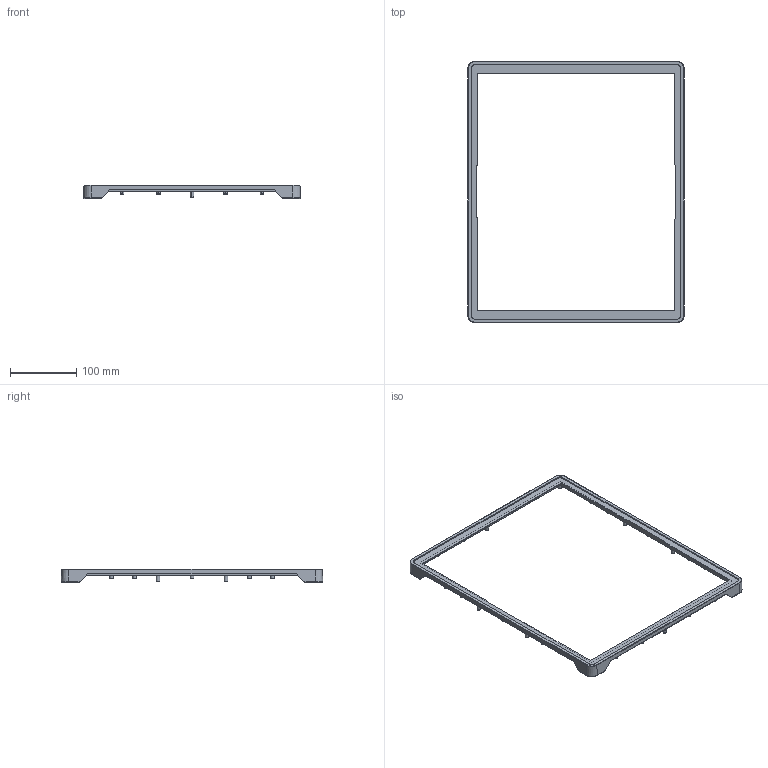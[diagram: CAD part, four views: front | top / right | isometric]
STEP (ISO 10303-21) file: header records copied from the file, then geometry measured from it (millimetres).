
FILE_DESCRIPTION(/* description */ (''),/* implementation_level */ '2;1');
FILE_NAME(/* name */ '17.stp',/* time_stamp */ '2021-07-02T17:19:17+08:00',/* author */ (''),/* organization */ (''),/* preprocessor_version */ 'ST-DEVELOPER v14',/* originating_system */ 'SIEMENS PLM Software NX 8.0',/* authorisation */ '');
FILE_SCHEMA (('AUTOMOTIVE_DESIGN { 1 0 10303 214 3 1 1 1 }'));
Length unit declared in the file: millimetre
Products named in the file (1): Admi1994CAA4lfpk
Bounding box: 326.9 x 394.6 x 20.08 mm (x, y, z)
Volume: 95221.5 mm3; surface area: 100839.2 mm2
Topology: 1 solids, 1 shells, 1566 faces, 4487 edges, 2954 vertices
Faces by surface type: plane 1344, cylinder 150, cone 64, torus 8
Entity records: 50791 total; most frequent: CARTESIAN_POINT 9506, ORIENTED_EDGE 8974, DIRECTION 8129, EDGE_CURVE 4487, LINE 3647, VECTOR 3647, VERTEX_POINT 2954, AXIS2_PLACEMENT_3D 2241
